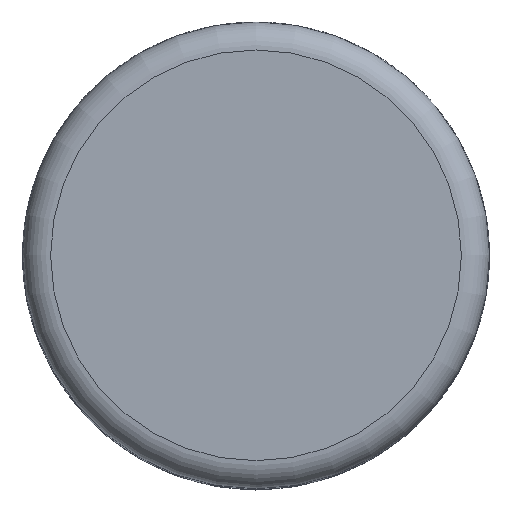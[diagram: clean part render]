
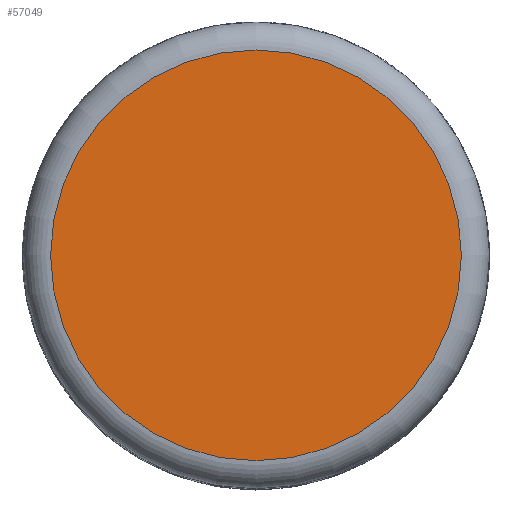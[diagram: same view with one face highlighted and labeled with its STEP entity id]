
A CAD part, top view. The second image highlights one B-rep face of the part: STEP entity #57049.
In plain terms, the highlighted planar face has unit normal (0, 0, 1).
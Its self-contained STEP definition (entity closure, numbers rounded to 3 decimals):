
#111 = TOROIDAL_SURFACE('',#112,8.8,1.2);
#112 = AXIS2_PLACEMENT_3D('',#113,#114,#115);
#113 = CARTESIAN_POINT('',(0.,0.,30.8));
#114 = DIRECTION('',(0.,0.,1.));
#115 = DIRECTION('',(1.,0.,-0.));
#28261 = VERTEX_POINT('',#28262);
#28262 = CARTESIAN_POINT('',(8.8,0.,32.));
#28284 = EDGE_CURVE('',#28261,#28261,#28285,.T.);
#28285 = SURFACE_CURVE('',#28286,(#28291,#28298),.PCURVE_S1.);
#28286 = CIRCLE('',#28287,8.8);
#28287 = AXIS2_PLACEMENT_3D('',#28288,#28289,#28290);
#28288 = CARTESIAN_POINT('',(0.,0.,32.));
#28289 = DIRECTION('',(0.,0.,1.));
#28290 = DIRECTION('',(1.,0.,-0.));
#28291 = PCURVE('',#111,#28292);
#28292 = DEFINITIONAL_REPRESENTATION('',(#28293),#28297);
#28293 = LINE('',#28294,#28295);
#28294 = CARTESIAN_POINT('',(0.,1.571));
#28295 = VECTOR('',#28296,1.);
#28296 = DIRECTION('',(1.,0.));
#28297 = ( GEOMETRIC_REPRESENTATION_CONTEXT(2) 
PARAMETRIC_REPRESENTATION_CONTEXT() REPRESENTATION_CONTEXT('2D SPACE',''
  ) );
#28298 = PCURVE('',#28299,#28304);
#28299 = PLANE('',#28300);
#28300 = AXIS2_PLACEMENT_3D('',#28301,#28302,#28303);
#28301 = CARTESIAN_POINT('',(0.,0.,32.));
#28302 = DIRECTION('',(0.,0.,1.));
#28303 = DIRECTION('',(1.,0.,-0.));
#28304 = DEFINITIONAL_REPRESENTATION('',(#28305),#28309);
#28305 = CIRCLE('',#28306,8.8);
#28306 = AXIS2_PLACEMENT_2D('',#28307,#28308);
#28307 = CARTESIAN_POINT('',(0.,0.));
#28308 = DIRECTION('',(1.,0.));
#28309 = ( GEOMETRIC_REPRESENTATION_CONTEXT(2) 
PARAMETRIC_REPRESENTATION_CONTEXT() REPRESENTATION_CONTEXT('2D SPACE',''
  ) );
#57049 = ADVANCED_FACE('',(#57050),#28299,.T.);
#57050 = FACE_BOUND('',#57051,.T.);
#57051 = EDGE_LOOP('',(#57052));
#57052 = ORIENTED_EDGE('',*,*,#28284,.T.);
